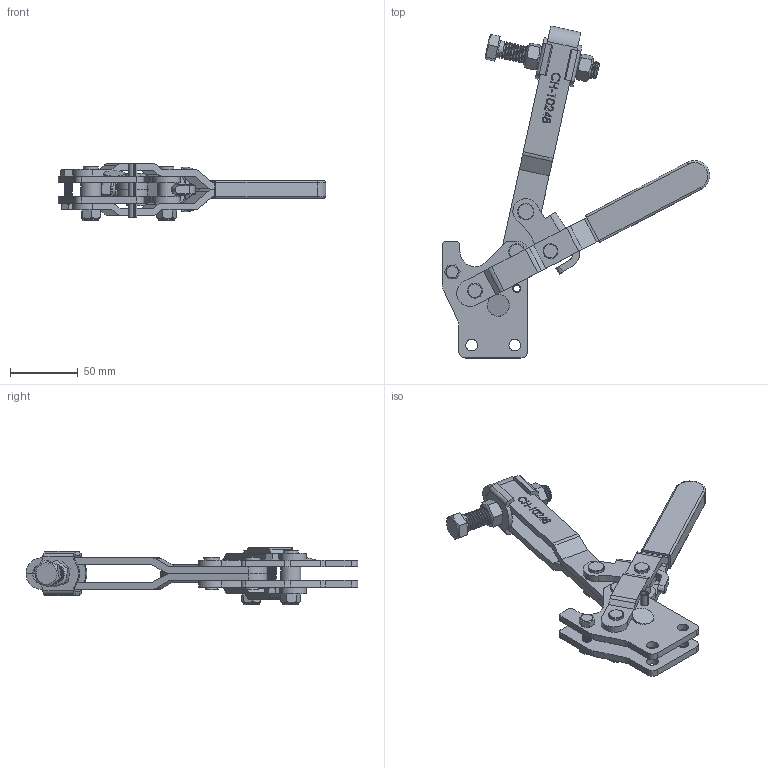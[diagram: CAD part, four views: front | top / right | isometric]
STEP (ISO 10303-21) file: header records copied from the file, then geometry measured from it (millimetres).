
FILE_DESCRIPTION(/* description */ ('STEP AP203'),/* implementation_level */ '2;1');
FILE_NAME(/* name */ 'D:\Vault_2016\Projekty\NASZ KATALOG\CLAMPTEK\STRONA\Vertical toggle clamp\CH-10248\CH-10248_OTWARTY.stp',/* time_stamp */ '2019-01-18T14:25:04+01:00',/* author */ ('CADENGINEERING4'),/* organization */ ('Î¢ÈíÖÐ¹ú'),/* preprocessor_version */ 'ST-DEVELOPER v17.2',/* originating_system */ 'Autodesk Inventor 2019',/* authorisation */ '');
FILE_SCHEMA (('AUTOMOTIVE_DESIGN { 1 0 10303 214 3 1 1 }'));
Products named in the file (18): CH-10248_OTWARTY; CH-10247-09; CH-10248-01 STRAIGHT BASE; M6X25; M6 Nut; CH-10247-10; CH-10247-03 HANDLE; CH-10247-04 CONNECTING-PLATE; CH-10247-07; CH-10248-02 U-BAR; CH-10247-08; CH-SA-12300 SPINDLE SUPPLIED; CH-10247-06; CH-SA-12300 NUT; CH-FW-120; CH-10247-11; 3-8-16 LOCK NUT; CH-10247-05
Assembly tree (23 placements, depth 2):
  CH-10248_OTWARTY
    CH-10247-09
    CH-10248-01 STRAIGHT BASE
    M6X25
    M6 Nut
    CH-FW-120  x2
    CH-10247-10
    CH-10247-08  x2
    CH-10247-06  x2
    CH-10247-03 HANDLE
    CH-10247-04 CONNECTING-PLATE
    3-8-16 LOCK NUT  x2
    CH-10247-11  x2
    CH-10247-07
    CH-10248-02 U-BAR
    CH-SA-12300 SPINDLE SUPPLIED
    CH-SA-12300 NUT  x2
    CH-10247-05
Bounding box: 197.27 x 244.94 x 42.5 mm (x, y, z)
Volume: 172453.7 mm3; surface area: 108481.9 mm2
Topology: 26 solids, 26 shells, 842 faces, 2360 edges, 1607 vertices
Faces by surface type: plane 360, cylinder 221, bspline 191, cone 64, torus 6
Full cylindrical faces by diameter (mm): 3.6 x1, 4.264 x1, 4.8 x5, 6 x24, 6.6 x2, 8 x8, 8.5 x8, 8.7 x4, 9.5 x16, 10.5 x8, 11 x8, 12 x4, 12.3 x4, 12.7 x36, 12.8 x1, 13 x2, 15 x1
Entity records: 60626 total; most frequent: CARTESIAN_POINT 41826, ORIENTED_EDGE 4206, DIRECTION 3094, EDGE_CURVE 2103, VERTEX_POINT 1430, LINE 1072, VECTOR 1072, AXIS2_PLACEMENT_3D 1011
